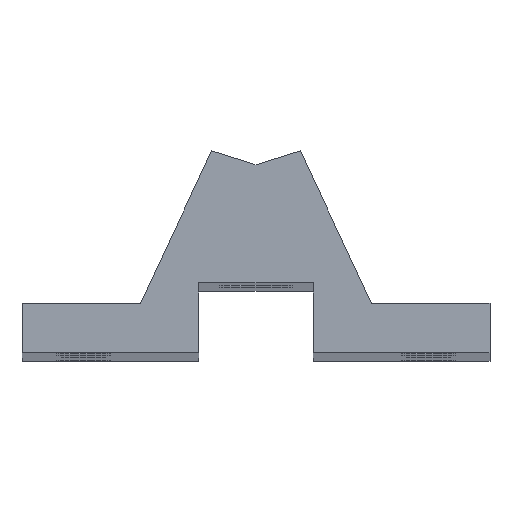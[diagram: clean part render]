
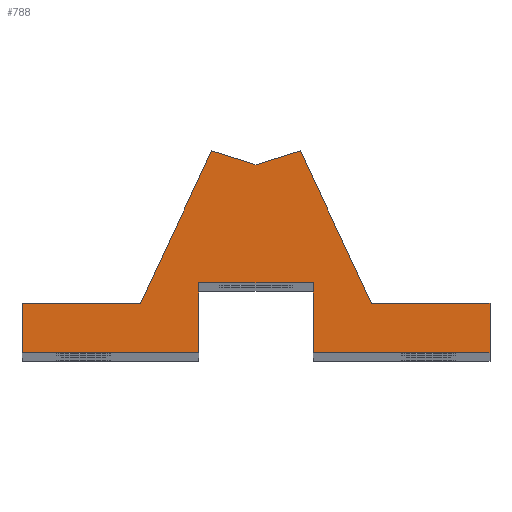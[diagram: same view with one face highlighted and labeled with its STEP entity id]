
A CAD part, top view. The second image highlights one B-rep face of the part: STEP entity #788.
In plain terms, the highlighted planar face has unit normal (0, 0, 1).
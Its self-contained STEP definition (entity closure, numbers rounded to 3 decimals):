
#59 = EDGE_CURVE ( 'NONE', #259, #694, #904, .T. ) ;
#85 = VECTOR ( 'NONE', #430, 1000. ) ;
#86 = VERTEX_POINT ( 'NONE', #781 ) ;
#139 = PLANE ( 'NONE',  #1642 ) ;
#179 = CARTESIAN_POINT ( 'NONE',  ( -28.5, 3., 299.75 ) ) ;
#181 = LINE ( 'NONE', #688, #1378 ) ;
#199 = EDGE_CURVE ( 'NONE', #86, #1034, #697, .T. ) ;
#207 = VECTOR ( 'NONE', #271, 1000. ) ;
#219 = EDGE_CURVE ( 'NONE', #1034, #1727, #689, .T. ) ;
#234 = ORIENTED_EDGE ( 'NONE', *, *, #1489, .T. ) ;
#259 = VERTEX_POINT ( 'NONE', #1370 ) ;
#270 = FACE_OUTER_BOUND ( 'NONE', #1081, .T. ) ;
#271 = DIRECTION ( 'NONE',  ( 0., 1., 0. ) ) ;
#283 = DIRECTION ( 'NONE',  ( -1., 0., 0. ) ) ;
#284 = VECTOR ( 'NONE', #1520, 1000. ) ;
#303 = ORIENTED_EDGE ( 'NONE', *, *, #219, .T. ) ;
#311 = CARTESIAN_POINT ( 'NONE',  ( 0., 19.893, 299.75 ) ) ;
#332 = CARTESIAN_POINT ( 'NONE',  ( 5.4, 21.596, 299.75 ) ) ;
#340 = CARTESIAN_POINT ( 'NONE',  ( 0., 19.893, 299.75 ) ) ;
#341 = VECTOR ( 'NONE', #775, 1000. ) ;
#355 = VERTEX_POINT ( 'NONE', #1554 ) ;
#369 = CARTESIAN_POINT ( 'NONE',  ( -14.071, 3., 299.75 ) ) ;
#375 = CARTESIAN_POINT ( 'NONE',  ( -28.5, 3., 299.75 ) ) ;
#393 = LINE ( 'NONE', #898, #1091 ) ;
#420 = VECTOR ( 'NONE', #1548, 1000. ) ;
#430 = DIRECTION ( 'NONE',  ( -0.423, 0.906, 0. ) ) ;
#467 = ORIENTED_EDGE ( 'NONE', *, *, #867, .T. ) ;
#506 = DIRECTION ( 'NONE',  ( -0.954, -0.301, 0. ) ) ;
#551 = DIRECTION ( 'NONE',  ( -1., 0., 0. ) ) ;
#586 = VERTEX_POINT ( 'NONE', #720 ) ;
#589 = ORIENTED_EDGE ( 'NONE', *, *, #1349, .F. ) ;
#612 = CARTESIAN_POINT ( 'NONE',  ( 14.071, 3., 299.75 ) ) ;
#629 = VECTOR ( 'NONE', #506, 1000. ) ;
#639 = CARTESIAN_POINT ( 'NONE',  ( 5.739, 21.703, 299.75 ) ) ;
#641 = LINE ( 'NONE', #1182, #207 ) ;
#656 = DIRECTION ( 'NONE',  ( 1., 0., 0. ) ) ;
#688 = CARTESIAN_POINT ( 'NONE',  ( 28.5, 3., 299.75 ) ) ;
#689 = LINE ( 'NONE', #1228, #85 ) ;
#694 = VERTEX_POINT ( 'NONE', #1582 ) ;
#697 = LINE ( 'NONE', #1211, #883 ) ;
#705 = VECTOR ( 'NONE', #815, 1000. ) ;
#714 = DIRECTION ( 'NONE',  ( 0., 1., 0. ) ) ;
#719 = LINE ( 'NONE', #311, #1613 ) ;
#720 = CARTESIAN_POINT ( 'NONE',  ( -7., -3., 299.75 ) ) ;
#743 = VERTEX_POINT ( 'NONE', #369 ) ;
#745 = VERTEX_POINT ( 'NONE', #1060 ) ;
#772 = EDGE_CURVE ( 'NONE', #790, #586, #1163, .T. ) ;
#775 = DIRECTION ( 'NONE',  ( 0., -1., 0. ) ) ;
#781 = CARTESIAN_POINT ( 'NONE',  ( 28.5, 3., 299.75 ) ) ;
#782 = CARTESIAN_POINT ( 'NONE',  ( -7., 5.5, 299.75 ) ) ;
#788 = ADVANCED_FACE ( 'NONE', ( #270 ), #139, .T. ) ;
#790 = VERTEX_POINT ( 'NONE', #1342 ) ;
#804 = DIRECTION ( 'NONE',  ( 0., 0., 1. ) ) ;
#815 = DIRECTION ( 'NONE',  ( 0., -1., 0. ) ) ;
#858 = LINE ( 'NONE', #1240, #420 ) ;
#867 = EDGE_CURVE ( 'NONE', #355, #586, #1057, .T. ) ;
#879 = EDGE_CURVE ( 'NONE', #1102, #355, #970, .T. ) ;
#883 = VECTOR ( 'NONE', #551, 1000. ) ;
#898 = CARTESIAN_POINT ( 'NONE',  ( -14.071, 3., 299.75 ) ) ;
#904 = LINE ( 'NONE', #1312, #998 ) ;
#906 = LINE ( 'NONE', #1344, #1469 ) ;
#920 = ORIENTED_EDGE ( 'NONE', *, *, #772, .F. ) ;
#970 = LINE ( 'NONE', #179, #705 ) ;
#998 = VECTOR ( 'NONE', #656, 1000. ) ;
#1030 = ORIENTED_EDGE ( 'NONE', *, *, #879, .T. ) ;
#1034 = VERTEX_POINT ( 'NONE', #612 ) ;
#1043 = VERTEX_POINT ( 'NONE', #1429 ) ;
#1057 = LINE ( 'NONE', #1377, #284 ) ;
#1060 = CARTESIAN_POINT ( 'NONE',  ( -5.4, 21.596, 299.75 ) ) ;
#1065 = ORIENTED_EDGE ( 'NONE', *, *, #1707, .T. ) ;
#1081 = EDGE_LOOP ( 'NONE', ( #1654, #1143, #234, #1647, #303, #1629, #1065, #1310, #1097, #1030, #467, #920, #589 ) ) ;
#1084 = EDGE_CURVE ( 'NONE', #259, #1043, #641, .T. ) ;
#1091 = VECTOR ( 'NONE', #1566, 1000. ) ;
#1097 = ORIENTED_EDGE ( 'NONE', *, *, #1635, .T. ) ;
#1102 = VERTEX_POINT ( 'NONE', #375 ) ;
#1143 = ORIENTED_EDGE ( 'NONE', *, *, #59, .T. ) ;
#1163 = LINE ( 'NONE', #782, #341 ) ;
#1182 = CARTESIAN_POINT ( 'NONE',  ( 7., 5.5, 299.75 ) ) ;
#1211 = CARTESIAN_POINT ( 'NONE',  ( -28.5, 3., 299.75 ) ) ;
#1214 = EDGE_CURVE ( 'NONE', #745, #743, #393, .T. ) ;
#1228 = CARTESIAN_POINT ( 'NONE',  ( 5.35, 21.703, 299.75 ) ) ;
#1240 = CARTESIAN_POINT ( 'NONE',  ( -28.5, 3., 299.75 ) ) ;
#1310 = ORIENTED_EDGE ( 'NONE', *, *, #1214, .T. ) ;
#1312 = CARTESIAN_POINT ( 'NONE',  ( -28.5, -3., 299.75 ) ) ;
#1340 = DIRECTION ( 'NONE',  ( 1., 0., 0. ) ) ;
#1342 = CARTESIAN_POINT ( 'NONE',  ( -7., 5.5, 299.75 ) ) ;
#1344 = CARTESIAN_POINT ( 'NONE',  ( -7., 5.5, 299.75 ) ) ;
#1348 = EDGE_CURVE ( 'NONE', #1727, #1669, #1487, .T. ) ;
#1349 = EDGE_CURVE ( 'NONE', #1043, #790, #906, .T. ) ;
#1370 = CARTESIAN_POINT ( 'NONE',  ( 7., -3., 299.75 ) ) ;
#1377 = CARTESIAN_POINT ( 'NONE',  ( -28.5, -3., 299.75 ) ) ;
#1378 = VECTOR ( 'NONE', #714, 1000. ) ;
#1417 = DIRECTION ( 'NONE',  ( -0.954, 0.301, 0. ) ) ;
#1429 = CARTESIAN_POINT ( 'NONE',  ( 7., 5.5, 299.75 ) ) ;
#1469 = VECTOR ( 'NONE', #283, 1000. ) ;
#1479 = CARTESIAN_POINT ( 'NONE',  ( 0., 0., 299.75 ) ) ;
#1487 = LINE ( 'NONE', #639, #629 ) ;
#1489 = EDGE_CURVE ( 'NONE', #694, #86, #181, .T. ) ;
#1520 = DIRECTION ( 'NONE',  ( 1., 0., 0. ) ) ;
#1548 = DIRECTION ( 'NONE',  ( -1., 0., 0. ) ) ;
#1554 = CARTESIAN_POINT ( 'NONE',  ( -28.5, -3., 299.75 ) ) ;
#1566 = DIRECTION ( 'NONE',  ( -0.423, -0.906, 0. ) ) ;
#1582 = CARTESIAN_POINT ( 'NONE',  ( 28.5, -3., 299.75 ) ) ;
#1613 = VECTOR ( 'NONE', #1417, 1000. ) ;
#1629 = ORIENTED_EDGE ( 'NONE', *, *, #1348, .T. ) ;
#1635 = EDGE_CURVE ( 'NONE', #743, #1102, #858, .T. ) ;
#1642 = AXIS2_PLACEMENT_3D ( 'NONE', #1479, #804, #1340 ) ;
#1647 = ORIENTED_EDGE ( 'NONE', *, *, #199, .T. ) ;
#1654 = ORIENTED_EDGE ( 'NONE', *, *, #1084, .F. ) ;
#1669 = VERTEX_POINT ( 'NONE', #340 ) ;
#1707 = EDGE_CURVE ( 'NONE', #1669, #745, #719, .T. ) ;
#1727 = VERTEX_POINT ( 'NONE', #332 ) ;
